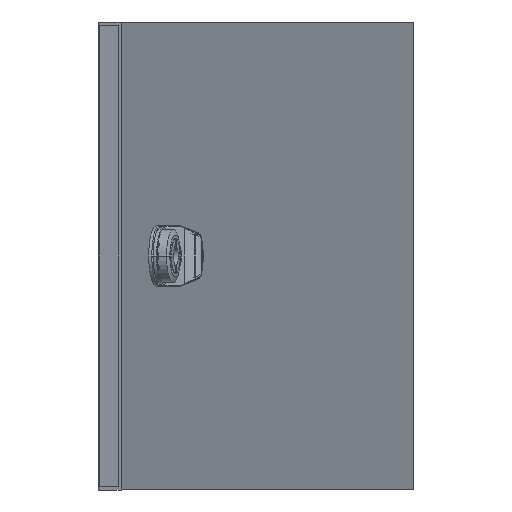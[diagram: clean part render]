
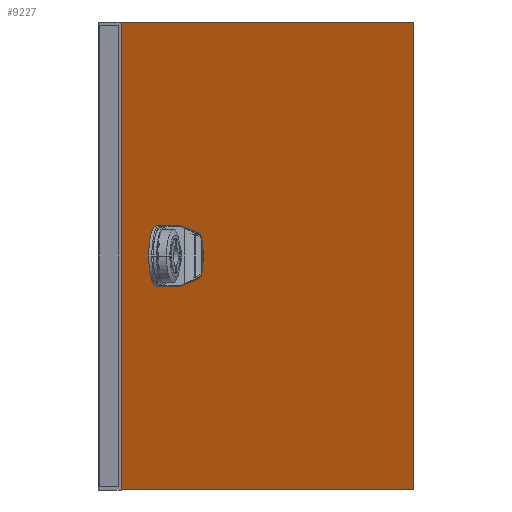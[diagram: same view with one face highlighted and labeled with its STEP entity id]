
A CAD part, front view. The second image highlights one B-rep face of the part: STEP entity #9227.
In plain terms, the highlighted planar face has unit normal (0.966, -0.259, 0).
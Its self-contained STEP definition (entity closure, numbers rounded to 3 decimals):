
#103 = CARTESIAN_POINT ( 'NONE',  ( -9.372, -28.362, 148. ) ) ;
#187 = LINE ( 'NONE', #4484, #11955 ) ;
#192 = DIRECTION ( 'NONE',  ( 0., 0., -1. ) ) ;
#232 = VERTEX_POINT ( 'NONE', #11474 ) ;
#630 = CARTESIAN_POINT ( 'NONE',  ( -148.744, -549.031, 41. ) ) ;
#739 = VERTEX_POINT ( 'NONE', #1152 ) ;
#989 = EDGE_CURVE ( 'NONE', #739, #12256, #5855, .T. ) ;
#1152 = CARTESIAN_POINT ( 'NONE',  ( -163.225, -603.127, 148. ) ) ;
#1268 = EDGE_LOOP ( 'NONE', ( #13557, #2645, #5999, #1671 ) ) ;
#1394 = FACE_OUTER_BOUND ( 'NONE', #1268, .T. ) ;
#1568 = LINE ( 'NONE', #7767, #6305 ) ;
#1671 = ORIENTED_EDGE ( 'NONE', *, *, #989, .F. ) ;
#1748 = LINE ( 'NONE', #12374, #2286 ) ;
#1805 = CIRCLE ( 'NONE', #9453, 16. ) ;
#1814 = EDGE_CURVE ( 'NONE', #10546, #2854, #1748, .T. ) ;
#2042 = CARTESIAN_POINT ( 'NONE',  ( -86.298, -315.744, -98. ) ) ;
#2093 = EDGE_CURVE ( 'NONE', #10635, #739, #187, .T. ) ;
#2112 = CIRCLE ( 'NONE', #3016, 1. ) ;
#2286 = VECTOR ( 'NONE', #6032, 1000. ) ;
#2645 = ORIENTED_EDGE ( 'NONE', *, *, #10567, .F. ) ;
#2843 = DIRECTION ( 'NONE',  ( -0.966, 0.259, 0. ) ) ;
#2854 = VERTEX_POINT ( 'NONE', #8858 ) ;
#3016 = AXIS2_PLACEMENT_3D ( 'NONE', #10476, #4971, #6028 ) ;
#3441 = DIRECTION ( 'NONE',  ( 0., 0., 1. ) ) ;
#3449 = CARTESIAN_POINT ( 'NONE',  ( -163.225, -603.127, -98. ) ) ;
#3641 = AXIS2_PLACEMENT_3D ( 'NONE', #7305, #8553, #10752 ) ;
#3911 = CARTESIAN_POINT ( 'NONE',  ( -140.401, -517.862, 9.579 ) ) ;
#4208 = CARTESIAN_POINT ( 'NONE',  ( -141.504, -521.983, 25. ) ) ;
#4223 = CARTESIAN_POINT ( 'NONE',  ( -140.211, -517.153, 39.457 ) ) ;
#4484 = CARTESIAN_POINT ( 'NONE',  ( -163.225, -603.127, 25. ) ) ;
#4602 = VERTEX_POINT ( 'NONE', #7692 ) ;
#4644 = EDGE_LOOP ( 'NONE', ( #10906, #8898, #7861, #11296, #9357, #7999, #12265, #6684 ) ) ;
#4923 = DIRECTION ( 'NONE',  ( 0.259, 0.966, 0. ) ) ;
#4971 = DIRECTION ( 'NONE',  ( 0.966, -0.259, 0. ) ) ;
#5011 = CARTESIAN_POINT ( 'NONE',  ( -141.504, -521.983, 25. ) ) ;
#5084 = DIRECTION ( 'NONE',  ( 0., 0., -1. ) ) ;
#5095 = EDGE_CURVE ( 'NONE', #12256, #5381, #10860, .T. ) ;
#5381 = VERTEX_POINT ( 'NONE', #7172 ) ;
#5400 = CIRCLE ( 'NONE', #11021, 16. ) ;
#5611 = DIRECTION ( 'NONE',  ( 0.966, -0.259, 0. ) ) ;
#5855 = LINE ( 'NONE', #10154, #6966 ) ;
#5973 = VERTEX_POINT ( 'NONE', #12497 ) ;
#5999 = ORIENTED_EDGE ( 'NONE', *, *, #5095, .F. ) ;
#6028 = DIRECTION ( 'NONE',  ( 0., 0., 1. ) ) ;
#6032 = DIRECTION ( 'NONE',  ( 0., 0., -1. ) ) ;
#6305 = VECTOR ( 'NONE', #11216, 1000. ) ;
#6684 = ORIENTED_EDGE ( 'NONE', *, *, #9426, .F. ) ;
#6737 = CARTESIAN_POINT ( 'NONE',  ( -144.607, -533.575, 25. ) ) ;
#6819 = CARTESIAN_POINT ( 'NONE',  ( -103.494, -379.983, 904. ) ) ;
#6966 = VECTOR ( 'NONE', #9102, 1000. ) ;
#7172 = CARTESIAN_POINT ( 'NONE',  ( -9.372, -28.362, -98. ) ) ;
#7305 = CARTESIAN_POINT ( 'NONE',  ( -140.47, -518.119, 39.457 ) ) ;
#7487 = EDGE_CURVE ( 'NONE', #9986, #5973, #10172, .T. ) ;
#7650 = VECTOR ( 'NONE', #4923, 1000. ) ;
#7692 = CARTESIAN_POINT ( 'NONE',  ( -140.401, -517.862, 40.42 ) ) ;
#7725 = PLANE ( 'NONE',  #9242 ) ;
#7748 = DIRECTION ( 'NONE',  ( 0., 0., -1. ) ) ;
#7767 = CARTESIAN_POINT ( 'NONE',  ( -148.744, -549.031, 9. ) ) ;
#7861 = ORIENTED_EDGE ( 'NONE', *, *, #7487, .T. ) ;
#7999 = ORIENTED_EDGE ( 'NONE', *, *, #13064, .T. ) ;
#8211 = EDGE_CURVE ( 'NONE', #12225, #232, #5400, .T. ) ;
#8412 = EDGE_CURVE ( 'NONE', #10688, #4602, #1805, .T. ) ;
#8547 = DIRECTION ( 'NONE',  ( -0.966, 0.259, 0. ) ) ;
#8553 = DIRECTION ( 'NONE',  ( 0.966, -0.259, 0. ) ) ;
#8630 = VECTOR ( 'NONE', #7748, 1000. ) ;
#8858 = CARTESIAN_POINT ( 'NONE',  ( -140.211, -517.153, 10.543 ) ) ;
#8898 = ORIENTED_EDGE ( 'NONE', *, *, #10768, .F. ) ;
#9102 = DIRECTION ( 'NONE',  ( 0.259, 0.966, 0. ) ) ;
#9187 = CARTESIAN_POINT ( 'NONE',  ( -144.607, -533.575, 9. ) ) ;
#9227 = ADVANCED_FACE ( 'NONE', ( #1394, #9993 ), #7725, .T. ) ;
#9242 = AXIS2_PLACEMENT_3D ( 'NONE', #6819, #5611, #192 ) ;
#9345 = CARTESIAN_POINT ( 'NONE',  ( -141.504, -521.983, 41. ) ) ;
#9357 = ORIENTED_EDGE ( 'NONE', *, *, #8211, .T. ) ;
#9426 = EDGE_CURVE ( 'NONE', #10546, #4602, #9476, .T. ) ;
#9453 = AXIS2_PLACEMENT_3D ( 'NONE', #4208, #8547, #10687 ) ;
#9476 = CIRCLE ( 'NONE', #3641, 1. ) ;
#9520 = VECTOR ( 'NONE', #10759, 1000. ) ;
#9800 = CARTESIAN_POINT ( 'NONE',  ( -9.372, -28.362, 25. ) ) ;
#9986 = VERTEX_POINT ( 'NONE', #3911 ) ;
#9993 = FACE_BOUND ( 'NONE', #4644, .T. ) ;
#10154 = CARTESIAN_POINT ( 'NONE',  ( -86.298, -315.744, 148. ) ) ;
#10172 = CIRCLE ( 'NONE', #11978, 16. ) ;
#10284 = LINE ( 'NONE', #630, #7650 ) ;
#10476 = CARTESIAN_POINT ( 'NONE',  ( -140.47, -518.119, 10.543 ) ) ;
#10546 = VERTEX_POINT ( 'NONE', #4223 ) ;
#10567 = EDGE_CURVE ( 'NONE', #5381, #10635, #11961, .T. ) ;
#10635 = VERTEX_POINT ( 'NONE', #3449 ) ;
#10687 = DIRECTION ( 'NONE',  ( 0., 0., -1. ) ) ;
#10688 = VERTEX_POINT ( 'NONE', #9345 ) ;
#10752 = DIRECTION ( 'NONE',  ( 0., 0., -1. ) ) ;
#10759 = DIRECTION ( 'NONE',  ( -0.259, -0.966, 0. ) ) ;
#10768 = EDGE_CURVE ( 'NONE', #9986, #2854, #2112, .T. ) ;
#10860 = LINE ( 'NONE', #9800, #8630 ) ;
#10906 = ORIENTED_EDGE ( 'NONE', *, *, #1814, .T. ) ;
#11021 = AXIS2_PLACEMENT_3D ( 'NONE', #6737, #13091, #11039 ) ;
#11039 = DIRECTION ( 'NONE',  ( 0., 0., -1. ) ) ;
#11216 = DIRECTION ( 'NONE',  ( -0.259, -0.966, 0. ) ) ;
#11296 = ORIENTED_EDGE ( 'NONE', *, *, #12418, .T. ) ;
#11474 = CARTESIAN_POINT ( 'NONE',  ( -144.607, -533.575, 41. ) ) ;
#11955 = VECTOR ( 'NONE', #3441, 1000. ) ;
#11961 = LINE ( 'NONE', #2042, #9520 ) ;
#11978 = AXIS2_PLACEMENT_3D ( 'NONE', #5011, #2843, #5084 ) ;
#12225 = VERTEX_POINT ( 'NONE', #9187 ) ;
#12256 = VERTEX_POINT ( 'NONE', #103 ) ;
#12265 = ORIENTED_EDGE ( 'NONE', *, *, #8412, .T. ) ;
#12374 = CARTESIAN_POINT ( 'NONE',  ( -140.211, -517.153, 41. ) ) ;
#12418 = EDGE_CURVE ( 'NONE', #5973, #12225, #1568, .T. ) ;
#12497 = CARTESIAN_POINT ( 'NONE',  ( -141.504, -521.983, 9. ) ) ;
#13064 = EDGE_CURVE ( 'NONE', #232, #10688, #10284, .T. ) ;
#13091 = DIRECTION ( 'NONE',  ( -0.966, 0.259, 0. ) ) ;
#13557 = ORIENTED_EDGE ( 'NONE', *, *, #2093, .F. ) ;
